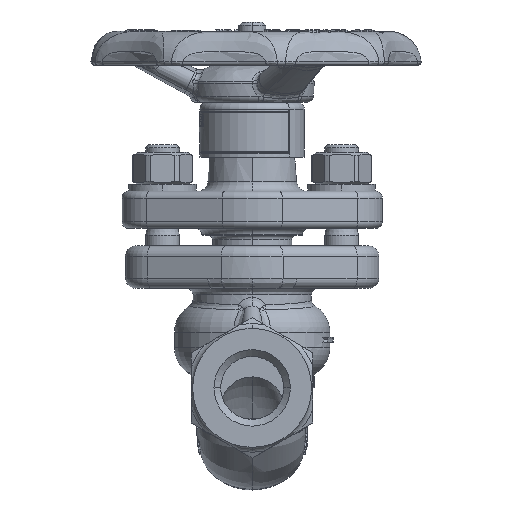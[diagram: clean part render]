
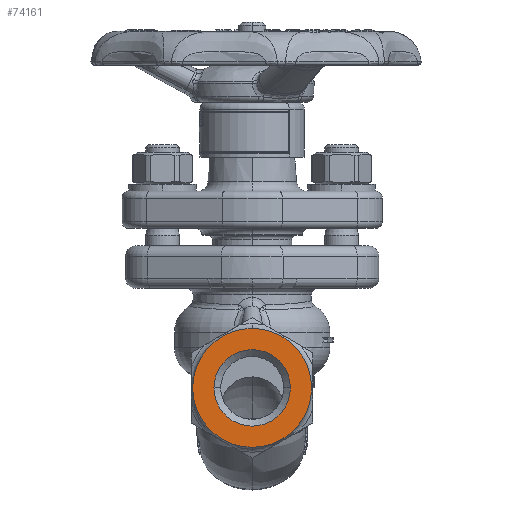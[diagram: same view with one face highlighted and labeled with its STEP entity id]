
A CAD part, left-side view. The second image highlights one B-rep face of the part: STEP entity #74161.
In plain terms, the highlighted planar face has unit normal (-1, 0, 0).
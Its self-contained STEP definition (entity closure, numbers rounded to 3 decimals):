
#4604=CARTESIAN_POINT('',(-50.,0.,0.));
#4605=DIRECTION('',(1.,0.,0.));
#4606=DIRECTION('',(0.,-1.,0.));
#4607=AXIS2_PLACEMENT_3D('',#4604,#4605,#4606);
#4609=CARTESIAN_POINT('',(-50.,0.,0.));
#4610=DIRECTION('',(1.,0.,0.));
#4611=DIRECTION('',(0.,1.,0.));
#4612=AXIS2_PLACEMENT_3D('',#4609,#4610,#4611);
#4614=CARTESIAN_POINT('',(-50.,0.,0.));
#4615=DIRECTION('',(-1.,0.,0.));
#4616=DIRECTION('',(0.,0.,-1.));
#4617=AXIS2_PLACEMENT_3D('',#4614,#4615,#4616);
#4684=CARTESIAN_POINT('',(-50.,0.,0.));
#4685=DIRECTION('',(-1.,0.,0.));
#4686=DIRECTION('',(0.,0.,1.));
#4687=AXIS2_PLACEMENT_3D('',#4684,#4685,#4686);
#53803=CARTESIAN_POINT('',(-50.,0.,-17.591));
#53804=CARTESIAN_POINT('',(-50.,0.,17.591));
#53805=VERTEX_POINT('',#53803);
#53806=VERTEX_POINT('',#53804);
#53835=CARTESIAN_POINT('',(-50.,-11.316,0.));
#53836=CARTESIAN_POINT('',(-50.,11.316,0.));
#53837=VERTEX_POINT('',#53835);
#53838=VERTEX_POINT('',#53836);
#74145=CARTESIAN_POINT('',(-50.,0.,0.));
#74146=DIRECTION('',(-1.,0.,0.));
#74147=DIRECTION('',(0.,0.,1.));
#74148=AXIS2_PLACEMENT_3D('',#74145,#74146,#74147);
#74149=PLANE('',#74148);
#74151=ORIENTED_EDGE('',*,*,#74150,.F.);
#74153=ORIENTED_EDGE('',*,*,#74152,.F.);
#74154=EDGE_LOOP('',(#74151,#74153));
#74155=FACE_OUTER_BOUND('',#74154,.F.);
#74157=ORIENTED_EDGE('',*,*,#74156,.F.);
#74158=ORIENTED_EDGE('',*,*,#74135,.F.);
#74159=EDGE_LOOP('',(#74157,#74158));
#74160=FACE_BOUND('',#74159,.F.);
#74161=ADVANCED_FACE('',(#74155,#74160),#74149,.T.);
#4608=CIRCLE('',#4607,11.316);
#4613=CIRCLE('',#4612,11.316);
#4618=CIRCLE('',#4617,17.591);
#4688=CIRCLE('',#4687,17.591);
#74135=EDGE_CURVE('',#53838,#53837,#4613,.T.);
#74150=EDGE_CURVE('',#53805,#53806,#4618,.T.);
#74152=EDGE_CURVE('',#53806,#53805,#4688,.T.);
#74156=EDGE_CURVE('',#53837,#53838,#4608,.T.);
